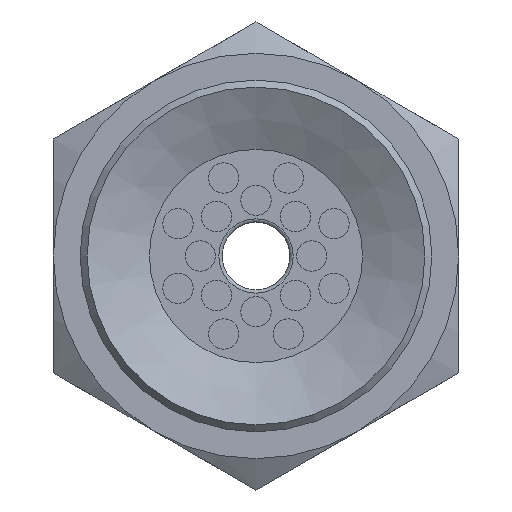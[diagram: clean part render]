
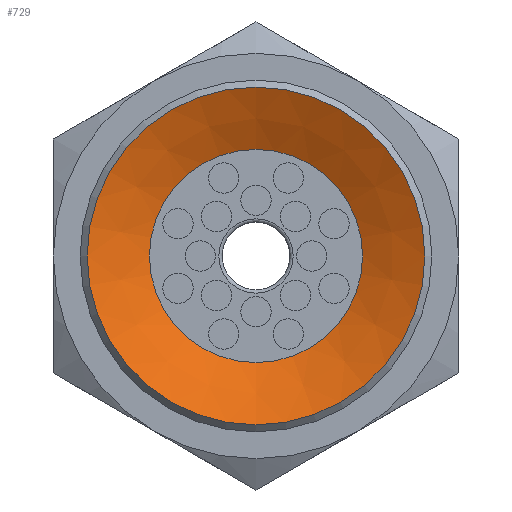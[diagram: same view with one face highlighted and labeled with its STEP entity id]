
A CAD part, front view. The second image highlights one B-rep face of the part: STEP entity #729.
In plain terms, the highlighted conical face has half-angle 64 degrees and reference radius 5 mm.
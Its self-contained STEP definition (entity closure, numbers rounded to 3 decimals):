
#729=ADVANCED_FACE('',(#1151,#1152),#1153,.F.);
#1151=FACE_BOUND('',#1617,.T.);
#1152=FACE_OUTER_BOUND('',#1618,.T.);
#1153=CONICAL_SURFACE('',#1619,5.0,1.117);
#1617=EDGE_LOOP('',(#2615));
#1618=EDGE_LOOP('',(#2616));
#1619=AXIS2_PLACEMENT_3D('',#2617,#2618,#2619);
#2615=ORIENTED_EDGE('',*,*,#2987,.T.);
#2616=ORIENTED_EDGE('',*,*,#2989,.F.);
#2617=CARTESIAN_POINT('',(0.0,0.,0.));
#2618=DIRECTION('',(0.0,0.,-1.0));
#2619=DIRECTION('',(0.0,1.0,0.));
#2987=EDGE_CURVE('',#3429,#3429,#3430,.T.);
#2989=EDGE_CURVE('',#3433,#3433,#3434,.T.);
#3429=VERTEX_POINT('',#4131);
#3430=CIRCLE('',#4132,3.155);
#3433=VERTEX_POINT('',#4135);
#3434=CIRCLE('',#4136,5.0);
#4131=CARTESIAN_POINT('',(0.0,-3.155,0.9));
#4132=AXIS2_PLACEMENT_3D('',#4608,#4609,#4610);
#4135=CARTESIAN_POINT('',(0.0,-5.0,0.));
#4136=AXIS2_PLACEMENT_3D('',#4614,#4615,#4616);
#4608=CARTESIAN_POINT('',(0.0,0.,0.9));
#4609=DIRECTION('',(0.0,0.,1.0));
#4610=DIRECTION('',(0.0,-1.0,0.));
#4614=CARTESIAN_POINT('',(0.0,0.,0.));
#4615=DIRECTION('',(0.0,0.,1.0));
#4616=DIRECTION('',(0.0,-1.0,0.));
